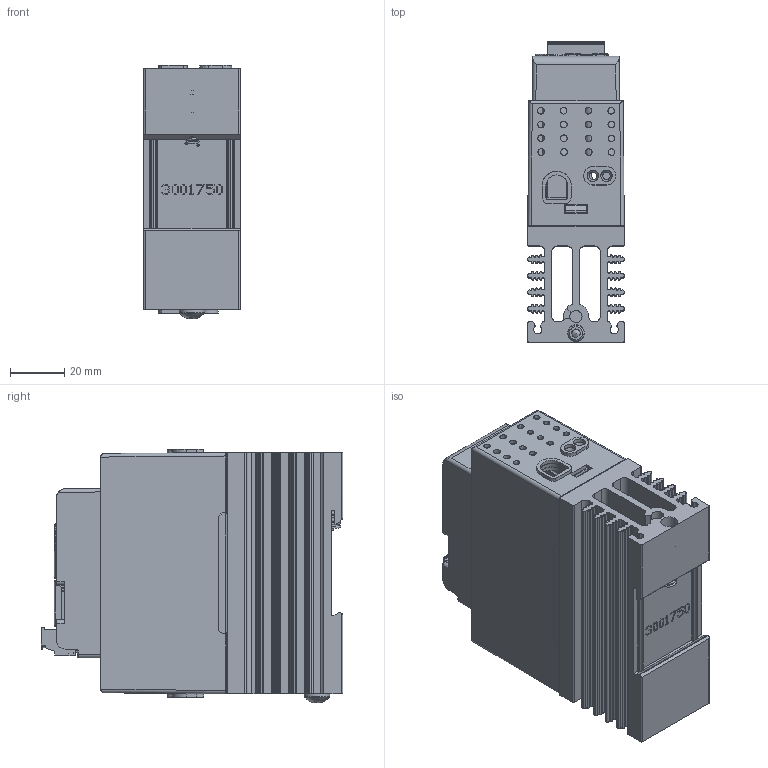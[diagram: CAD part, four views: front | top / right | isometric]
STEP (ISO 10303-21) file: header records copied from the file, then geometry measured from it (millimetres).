
FILE_DESCRIPTION(/* description */ (''),/* implementation_level */ '2;1');
FILE_NAME(/* name */ '1-phase Digital 25A.stp',/* time_stamp */ '2024-10-29T13:50:14-05:00',/* author */ ('ErikG'),/* organization */ (''),/* preprocessor_version */ 'ST-DEVELOPER v20',/* originating_system */ 'Autodesk Inventor 2025',/* authorisation */ '');
FILE_SCHEMA (('AUTOMOTIVE_DESIGN { 1 0 10303 214 3 1 1 }'));
Products named in the file (23): 3001631e; 3001762; 1001592E; P6; fci 6 pin header OQ06120000J0G; fci 6 pin headerOQ06120000J0G half 1; fci 5 pin header OQ05120000J0G half 2; 0053035-0138-06; P4; P5; usb-c31-s-vt-cs4-bk-pp-t-r-model ADAMTECH; P2; 74990101210 (rev1); base; shielding; 3001759; 3001760; 3001755; 3001756; 3001750; 0060702-1032-0375; spring; 0060783-0610-010.ipt
Assembly tree (24 placements, depth 5):
  3001631e
    3001762
    1001592E
      P6
        fci 6 pin header OQ06120000J0G
          fci 6 pin headerOQ06120000J0G half 1
          fci 5 pin header OQ05120000J0G half 2
          0053035-0138-06
      P4
        74990101210 (rev1)
          base
          shielding
      P5
        usb-c31-s-vt-cs4-bk-pp-t-r-model ADAMTECH
      P2
        74990101210 (rev1)
          base
          shielding
    3001759
    3001760  x2
    3001755
    3001756
    3001750
    0060702-1032-0375
    spring
    0060783-0610-010.ipt
Bounding box: 35.56 x 111.14 x 93.49 mm (x, y, z)
Volume: 128334 mm3; surface area: 130165.7 mm2
Topology: 19 solids, 109 shells, 6200 faces, 16949 edges, 11071 vertices
Faces by surface type: plane 4657, cylinder 1132, cone 211, bspline 111, torus 70, sphere 19
Full cylindrical faces by diameter (mm): 0.254 x1, 0.45 x2, 0.55 x2, 0.65 x2, 1 x2, 2.3 x12, 2.54 x2, 2.642 x3, 2.95 x6, 3.277 x2, 4.826 x1, 4.917 x1, 6 x1, 6.172 x1, 7.976 x1, 9.474 x1
Entity records: 188918 total; most frequent: CARTESIAN_POINT 47168, ORIENTED_EDGE 29854, DIRECTION 27809, EDGE_CURVE 14927, LINE 11577, VECTOR 11577, VERTEX_POINT 9773, AXIS2_PLACEMENT_3D 8116
